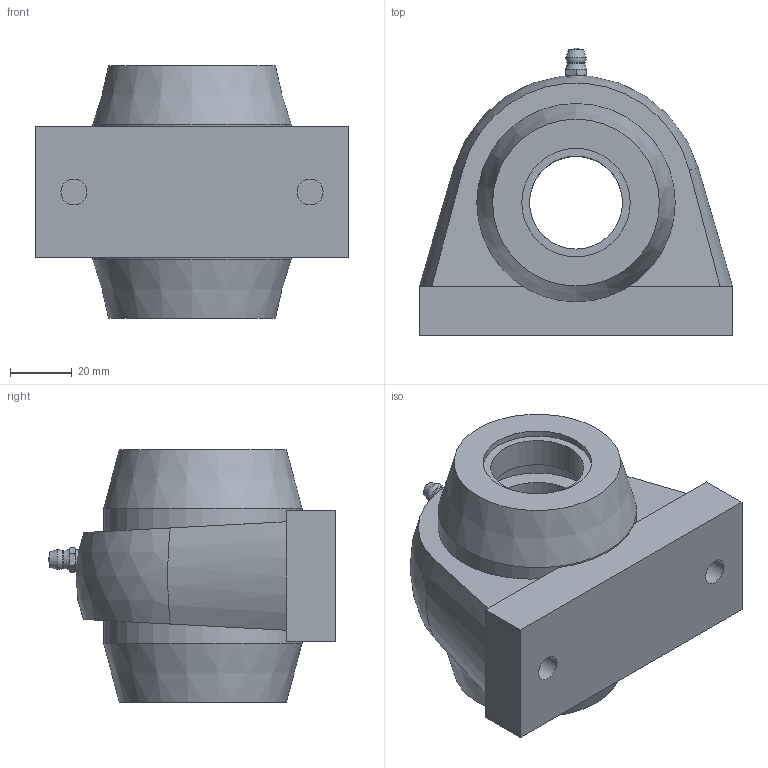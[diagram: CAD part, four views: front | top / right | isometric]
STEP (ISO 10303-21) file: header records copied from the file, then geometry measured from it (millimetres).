
FILE_DESCRIPTION(/* description */ (''),/* implementation_level */ '2;1');
FILE_NAME(/* name */ 'C:\Users\UGijyutu_200702\Desktop\77.プラスチックハウジング\MBTBL200V\MBTBL200VC\MBTBL206VC.stp',/* time_stamp */ '2024-05-28T12:00:28+09:00',/* author */ ('UGijyutu_200702'),/* organization */ (''),/* preprocessor_version */ 'ST-DEVELOPER v18',/* originating_system */ 'Autodesk Inventor 2020',/* authorisation */ '');
FILE_SCHEMA (('AUTOMOTIVE_DESIGN { 1 0 10303 214 3 1 1 }'));
Length unit declared in the file: millimetre
Products named in the file (5): MBTBL206V; TBL206; MB6 V; 1/4-28UNF-2A; 206C
Assembly tree (5 placements, depth 2):
  MBTBL206V
    TBL206
    MB6 V
    1/4-28UNF-2A
    206C  x2
Bounding box: 101 x 92.8 x 81.6 mm (x, y, z)
Volume: 219054.7 mm3; surface area: 72440.6 mm2
Topology: 5 solids, 5 shells, 109 faces, 263 edges, 181 vertices
Faces by surface type: plane 56, cylinder 27, cone 19, sphere 5, torus 2
Full cylindrical faces by diameter (mm): 3.2 x1, 5 x2, 5.359 x1, 6.35 x1, 8.376 x2, 30 x3, 35 x2, 40.5 x1, 46 x2, 60 x2, 63.8 x2, 64 x2
Entity records: 3365 total; most frequent: CARTESIAN_POINT 761, DIRECTION 525, ORIENTED_EDGE 474, EDGE_CURVE 237, AXIS2_PLACEMENT_3D 219, VERTEX_POINT 163, EDGE_LOOP 120, CIRCLE 102
